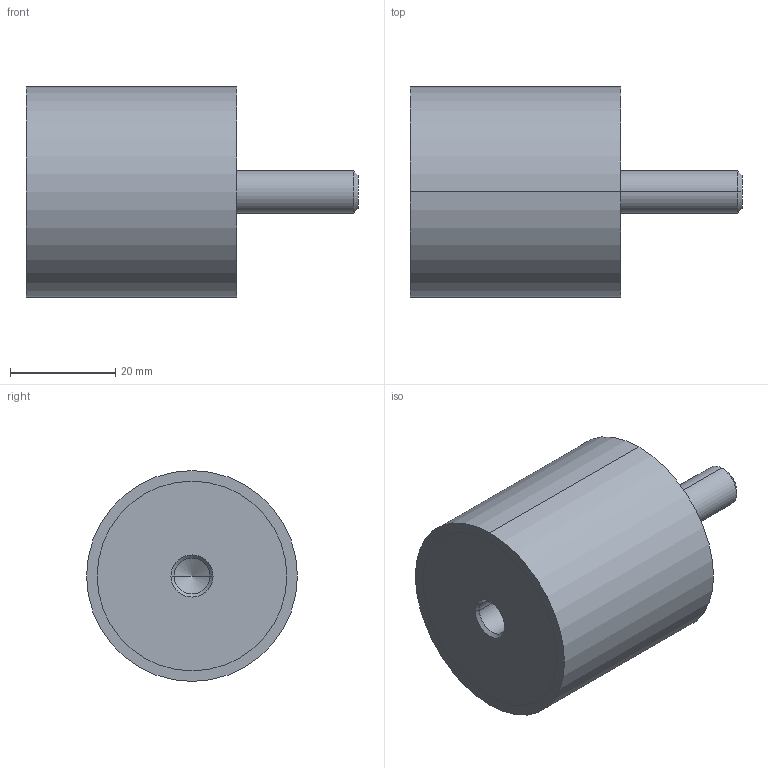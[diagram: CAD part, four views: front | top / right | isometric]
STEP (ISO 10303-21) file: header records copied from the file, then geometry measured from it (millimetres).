
FILE_DESCRIPTION (( 'STEP AP214' ), '1' );
FILE_NAME ('351-40-40-M8-ES-70.step', '2025-07-23T09:42:40', ( '' ), ( '' ), 'SwSTEP 2.0', 'SolidWorks 2022', '' );
FILE_SCHEMA (( 'AUTOMOTIVE_DESIGN' ));
Length unit declared in the file: millimetre
Products named in the file (1): 351-40-40-M8-ES-70
Bounding box: 63 x 40 x 40 mm (x, y, z)
Volume: 51041 mm3; surface area: 8298.1 mm2
Topology: 1 solids, 1 shells, 24 faces, 48 edges, 29 vertices
Faces by surface type: cylinder 12, cone 6, plane 6
Entity records: 740 total; most frequent: DIRECTION 124, CARTESIAN_POINT 100, ORIENTED_EDGE 92, AXIS2_PLACEMENT_3D 53, EDGE_CURVE 46, VERTEX_POINT 29, EDGE_LOOP 29, CIRCLE 28
